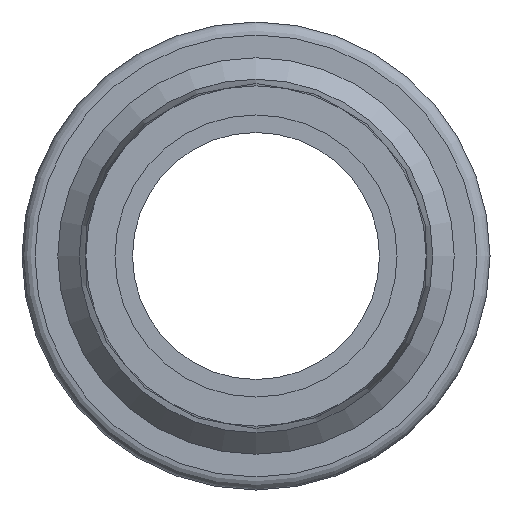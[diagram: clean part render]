
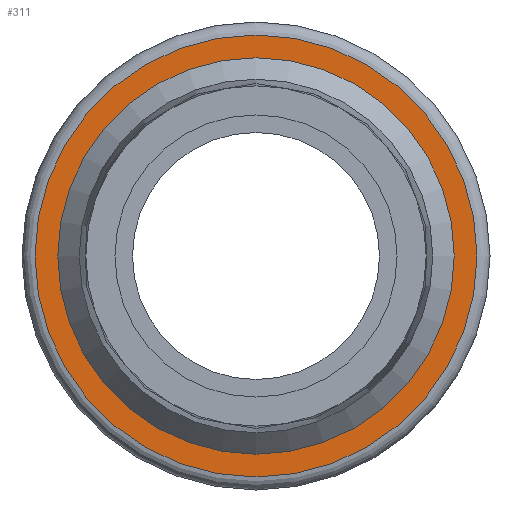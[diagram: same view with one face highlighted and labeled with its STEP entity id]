
A CAD part, front view. The second image highlights one B-rep face of the part: STEP entity #311.
In plain terms, the highlighted planar face has unit normal (0, -1, 0).
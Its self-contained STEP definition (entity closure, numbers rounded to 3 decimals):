
#81=ORIENTED_EDGE('',*,*,#107,.T.);
#82=ORIENTED_EDGE('',*,*,#106,.F.);
#106=EDGE_CURVE('',#126,#126,#146,.T.);
#107=EDGE_CURVE('',#127,#127,#147,.T.);
#126=VERTEX_POINT('',#515);
#127=VERTEX_POINT('',#518);
#146=CIRCLE('',#365,13.214);
#147=CIRCLE('',#367,17.);
#181=EDGE_LOOP('',(#81));
#182=EDGE_LOOP('',(#82));
#221=FACE_BOUND('',#181,.T.);
#222=FACE_BOUND('',#182,.T.);
#235=PLANE('',#366);
#311=ADVANCED_FACE('',(#221,#222),#235,.T.);
#365=AXIS2_PLACEMENT_3D('',#514,#445,#446);
#366=AXIS2_PLACEMENT_3D('',#516,#447,#448);
#367=AXIS2_PLACEMENT_3D('',#517,#449,#450);
#445=DIRECTION('',(0.,-1.,0.));
#446=DIRECTION('',(0.,0.,-1.));
#447=DIRECTION('',(0.,-1.,0.));
#448=DIRECTION('',(0.,0.,-1.));
#449=DIRECTION('',(0.,-1.,0.));
#450=DIRECTION('',(0.,0.,-1.));
#514=CARTESIAN_POINT('',(0.,0.,0.));
#515=CARTESIAN_POINT('',(0.,0.,-13.214));
#516=CARTESIAN_POINT('',(0.,0.,13.214));
#517=CARTESIAN_POINT('',(0.,0.,0.));
#518=CARTESIAN_POINT('',(0.,0.,-17.));
